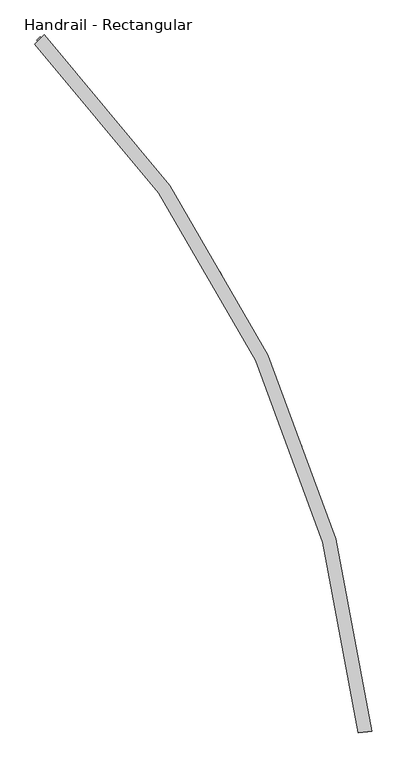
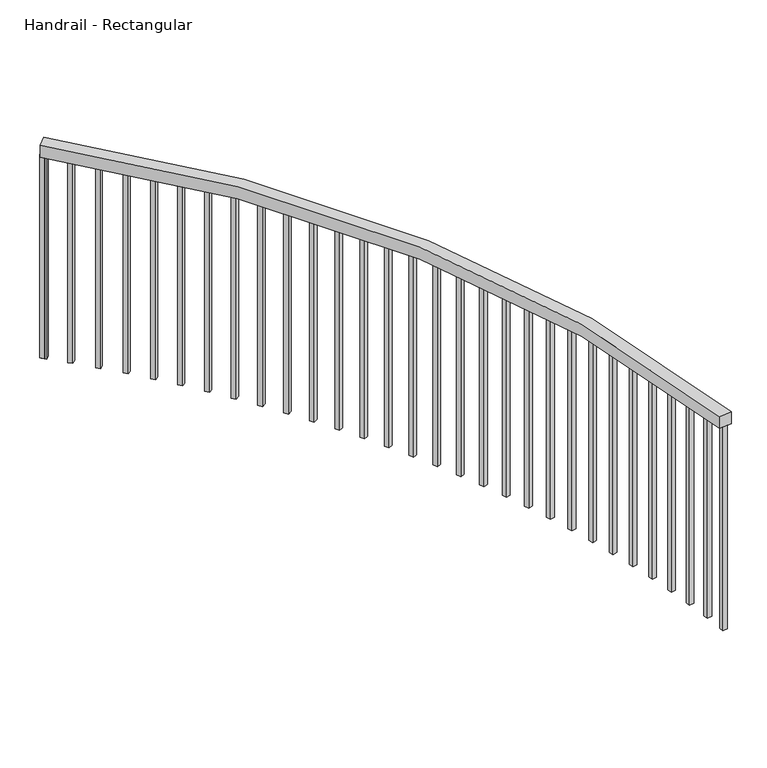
"""IFC4 building model written with IfcOpenShell, lengths in millimetres: railing geometry, Handrail - Rectangular."""

from ifc_helpers import new_model, si_unit, point, frame, frame_2d, origin, place, context, project, spatial, polyline, circle_curve, trimmed, segment, composite_curve, outline, extrude, source, transform, mapped, element, save


def handrail_rectangular_2085f445(model_context):
    return source(origin(), model_context, "Body", "SweptSolid", [
        extrude(outline(composite_curve([segment(trimmed(circle_curve(frame_2d((-12311.0905196, -1776.2264191)), 4368.8), [point((-9201.1741827, 1292.1336995))], [point((-7963.8821039, -1342.4149045))], False, "CARTESIAN"), True, "CONTINUOUS"), segment(polyline([(-7963.8821039, -1342.4149045), (-8014.4310389, -1347.4592244)]), True, "CONTINUOUS"), segment(trimmed(circle_curve(frame_2d((-12311.0905196, -1776.2264191)), 4318.0), [point((-8014.4310389, -1347.4592244))], [point((-9237.3360005, 1256.4550934))], True, "CARTESIAN"), True, "CONTINUOUS"), segment(polyline([(-9237.3360005, 1256.4550934), (-9201.1741827, 1292.1336995)]), True, "CONTINUOUS")], self_intersect=False)), frame((0.0, 0.0, 35458.4), z_axis=(0.0, 0.0, 1.0), x_axis=(1.0, 0.0, 0.0)), (0.0, 0.0, 1.0), 50.8),
        extrude(outline(polyline([(-9203.1994728, 1271.5695095), (-9216.7714949, 1258.201536), (-9230.1394684, 1271.7735582), (-9216.5674463, 1285.1415316), (-9203.1994728, 1271.5695095)])), frame((0.0, 0.0, 34594.8), z_axis=(0.0, 0.0, 1.0), x_axis=(1.0, 0.0, 0.0)), (0.0, 0.0, 1.0), 863.6),
        extrude(outline(polyline([(-9132.7627466, 1198.0431297), (-9146.6437284, 1184.9962586), (-9159.6905995, 1198.8772404), (-9145.8096177, 1211.9241114), (-9132.7627466, 1198.0431297)])), frame((0.0, 0.0, 34594.8), z_axis=(0.0, 0.0, 1.0), x_axis=(1.0, 0.0, 0.0)), (0.0, 0.0, 1.0), 863.6),
        extrude(outline(polyline([(-9064.0650487, 1122.8893724), (-9078.2473952, 1110.1707424), (-9090.9660252, 1124.3530888), (-9076.7836788, 1137.0717188), (-9064.0650487, 1122.8893724)])), frame((0.0, 0.0, 34594.8), z_axis=(0.0, 0.0, 1.0), x_axis=(1.0, 0.0, 0.0)), (0.0, 0.0, 1.0), 863.6),
        extrude(outline(polyline([(-8997.1439672, 1046.1493583), (-9011.6199183, 1033.7659283), (-9024.0033483, 1048.2418795), (-9009.5273972, 1060.6253095), (-8997.1439672, 1046.1493583)])), frame((0.0, 0.0, 34594.8), z_axis=(0.0, 0.0, 1.0), x_axis=(1.0, 0.0, 0.0)), (0.0, 0.0, 1.0), 863.6),
        extrude(outline(polyline([(-8932.036118, 967.8650758), (-8946.7977533, 955.8236214), (-8958.8392077, 970.5852568), (-8944.0775723, 982.6267111), (-8932.036118, 967.8650758)])), frame((0.0, 0.0, 34594.8), z_axis=(0.0, 0.0, 1.0), x_axis=(1.0, 0.0, 0.0)), (0.0, 0.0, 1.0), 863.6),
        extrude(outline(polyline([(-8868.777125, 888.0793582), (-8883.8163677, 876.386468), (-8895.5092578, 891.4257107), (-8880.4700152, 903.1186008), (-8868.777125, 888.0793582)])), frame((0.0, 0.0, 34594.8), z_axis=(0.0, 0.0, 1.0), x_axis=(1.0, 0.0, 0.0)), (0.0, 0.0, 1.0), 863.6),
        extrude(outline(polyline([(-8807.4016006, 806.8358604), (-8822.7102218, 795.4979323), (-8834.04815, 810.8065535), (-8818.7395288, 822.1444817), (-8807.4016006, 806.8358604)])), frame((0.0, 0.0, 34594.8), z_axis=(0.0, 0.0, 1.0), x_axis=(1.0, 0.0, 0.0)), (0.0, 0.0, 1.0), 863.6),
        extrude(outline(polyline([(-8747.9431264, 724.1790351), (-8763.5127501, 713.2022725), (-8774.4895127, 728.7718962), (-8758.9198891, 739.7486588), (-8747.9431264, 724.1790351)])), frame((0.0, 0.0, 34594.8), z_axis=(0.0, 0.0, 1.0), x_axis=(1.0, 0.0, 0.0)), (0.0, 0.0, 1.0), 863.6),
        extrude(outline(polyline([(-8690.4342353, 640.1541081), (-8706.2563425, 629.5445169), (-8716.8659336, 645.3666241), (-8701.0438265, 655.9762152), (-8690.4342353, 640.1541081)])), frame((0.0, 0.0, 34594.8), z_axis=(0.0, 0.0, 1.0), x_axis=(1.0, 0.0, 0.0)), (0.0, 0.0, 1.0), 863.6),
        extrude(outline(polyline([(-8634.9063934, 554.8070537), (-8650.9723269, 544.5704391), (-8661.2089415, 560.6363726), (-8645.143008, 570.8729872), (-8634.9063934, 554.8070537)])), frame((0.0, 0.0, 34594.8), z_axis=(0.0, 0.0, 1.0), x_axis=(1.0, 0.0, 0.0)), (0.0, 0.0, 1.0), 863.6),
        extrude(outline(polyline([(-8581.3899828, 468.1845698), (-8597.6909522, 458.3265327), (-8607.5489893, 474.6275021), (-8591.2480199, 484.4855392), (-8581.3899828, 468.1845698)])), frame((0.0, 0.0, 34594.8), z_axis=(0.0, 0.0, 1.0), x_axis=(1.0, 0.0, 0.0)), (0.0, 0.0, 1.0), 863.6),
        extrude(outline(polyline([(-8529.9142852, 380.334052), (-8546.4413714, 370.8599863), (-8555.9154371, 387.3870725), (-8539.3883509, 396.8611382), (-8529.9142852, 380.334052)])), frame((0.0, 0.0, 34594.8), z_axis=(0.0, 0.0, 1.0), x_axis=(1.0, 0.0, 0.0)), (0.0, 0.0, 1.0), 863.6),
        extrude(outline(polyline([(-8480.5074655, 291.3035679), (-8497.2516257, 282.2186573), (-8506.3365363, 298.9628175), (-8489.5923761, 308.047728), (-8480.5074655, 291.3035679)])), frame((0.0, 0.0, 34594.8), z_axis=(0.0, 0.0, 1.0), x_axis=(1.0, 0.0, 0.0)), (0.0, 0.0, 1.0), 863.6),
        extrude(outline(polyline([(-8433.1965569, 201.1418307), (-8450.1486294, 192.4510461), (-8458.8394141, 209.4031186), (-8441.8873415, 218.0939032), (-8433.1965569, 201.1418307)])), frame((0.0, 0.0, 34594.8), z_axis=(0.0, 0.0, 1.0), x_axis=(1.0, 0.0, 0.0)), (0.0, 0.0, 1.0), 863.6),
        extrude(outline(polyline([(-8388.0074456, 109.8981726), (-8405.1581551, 101.6062691), (-8413.4500586, 118.7569787), (-8396.2993491, 127.0488821), (-8388.0074456, 109.8981726)])), frame((0.0, 0.0, 34594.8), z_axis=(0.0, 0.0, 1.0), x_axis=(1.0, 0.0, 0.0)), (0.0, 0.0, 1.0), 863.6),
        extrude(outline(polyline([(-8344.9648568, 17.6225178), (-8362.3048193, 9.7340324), (-8370.1933047, 27.0739948), (-8352.8533423, 34.9624802), (-8344.9648568, 17.6225178)])), frame((0.0, 0.0, 34594.8), z_axis=(0.0, 0.0, 1.0), x_axis=(1.0, 0.0, 0.0)), (0.0, 0.0, 1.0), 863.6),
        extrude(outline(polyline([(-8304.0923415, -75.634645), (-8321.6120693, -83.1153962), (-8329.0928205, -65.5956684), (-8311.5730927, -58.1149172), (-8304.0923415, -75.634645)])), frame((0.0, 0.0, 34594.8), z_axis=(0.0, 0.0, 1.0), x_axis=(1.0, 0.0, 0.0)), (0.0, 0.0, 1.0), 863.6),
        extrude(outline(polyline([(-8265.4122631, -169.8222899), (-8283.1021703, -176.8912137), (-8290.1710941, -159.2013065), (-8272.4811869, -152.1323827), (-8265.4122631, -169.8222899)])), frame((0.0, 0.0, 34594.8), z_axis=(0.0, 0.0, 1.0), x_axis=(1.0, 0.0, 0.0)), (0.0, 0.0, 1.0), 863.6),
        extrude(outline(polyline([(-8228.9457855, -264.888882), (-8246.796193, -271.5421107), (-8253.4494216, -253.6917031), (-8235.5990141, -247.0384745), (-8228.9457855, -264.888882)])), frame((0.0, 0.0, 34594.8), z_axis=(0.0, 0.0, 1.0), x_axis=(1.0, 0.0, 0.0)), (0.0, 0.0, 1.0), 863.6),
        extrude(outline(polyline([(-8194.7128613, -360.7824054), (-8212.7140023, -367.0162986), (-8218.9478955, -349.0151576), (-8200.9467545, -342.7812645), (-8194.7128613, -360.7824054)])), frame((0.0, 0.0, 34594.8), z_axis=(0.0, 0.0, 1.0), x_axis=(1.0, 0.0, 0.0)), (0.0, 0.0, 1.0), 863.6),
        extrude(outline(polyline([(-8162.7322213, -457.4503918), (-8180.8742464, -463.2615386), (-8186.6853931, -445.1195135), (-8168.5433681, -439.3083667), (-8162.7322213, -457.4503918)])), frame((0.0, 0.0, 34594.8), z_axis=(0.0, 0.0, 1.0), x_axis=(1.0, 0.0, 0.0)), (0.0, 0.0, 1.0), 863.6),
        extrude(outline(polyline([(-8133.0213636, -554.839949), (-8151.2943463, -560.2251699), (-8156.6795672, -541.9521872), (-8138.4065845, -536.5669663), (-8133.0213636, -554.839949)])), frame((0.0, 0.0, 34594.8), z_axis=(0.0, 0.0, 1.0), x_axis=(1.0, 0.0, 0.0)), (0.0, 0.0, 1.0), 863.6),
        extrude(outline(polyline([(-8105.5965447, -652.8977903), (-8123.9904869, -657.8541386), (-8128.9468353, -639.4601964), (-8110.5528931, -634.503848), (-8105.5965447, -652.8977903)])), frame((0.0, 0.0, 34594.8), z_axis=(0.0, 0.0, 1.0), x_axis=(1.0, 0.0, 0.0)), (0.0, 0.0, 1.0), 863.6),
        extrude(outline(polyline([(-8080.47277, -751.570263), (-8098.9776075, -756.095027), (-8103.5023715, -737.5901895), (-8084.997534, -733.0654255), (-8080.47277, -751.570263)])), frame((0.0, 0.0, 34594.8), z_axis=(0.0, 0.0, 1.0), x_axis=(1.0, 0.0, 0.0)), (0.0, 0.0, 1.0), 863.6),
        extrude(outline(polyline([(-8057.6637862, -850.8033783), (-8076.2693939, -854.8940822), (-8080.3600979, -836.2884744), (-8061.7544901, -832.1977705), (-8057.6637862, -850.8033783)])), frame((0.0, 0.0, 34594.8), z_axis=(0.0, 0.0, 1.0), x_axis=(1.0, 0.0, 0.0)), (0.0, 0.0, 1.0), 863.6),
        extrude(outline(polyline([(-8037.182073, -950.5428406), (-8055.878271, -954.1972462), (-8059.5326766, -935.5010482), (-8040.8364786, -931.8466426), (-8037.182073, -950.5428406)])), frame((0.0, 0.0, 34594.8), z_axis=(0.0, 0.0, 1.0), x_axis=(1.0, 0.0, 0.0)), (0.0, 0.0, 1.0), 863.6),
        extrude(outline(polyline([(-8019.0388373, -1050.7340774), (-8037.8153959, -1053.9501851), (-8041.0315036, -1035.1736266), (-8022.2549451, -1031.9575188), (-8019.0388373, -1050.7340774)])), frame((0.0, 0.0, 34594.8), z_axis=(0.0, 0.0, 1.0), x_axis=(1.0, 0.0, 0.0)), (0.0, 0.0, 1.0), 863.6),
        extrude(outline(polyline([(-8003.2440061, -1151.3222687), (-8022.0906515, -1154.0983189), (-8024.8667017, -1135.2516734), (-8006.0200563, -1132.4756232), (-8003.2440061, -1151.3222687)])), frame((0.0, 0.0, 34594.8), z_axis=(0.0, 0.0, 1.0), x_axis=(1.0, 0.0, 0.0)), (0.0, 0.0, 1.0), 863.6),
        extrude(outline(polyline([(-7989.8062215, -1252.2523775), (-8008.7126419, -1254.5868513), (-8011.0471156, -1235.6804309), (-7992.1406952, -1233.3459571), (-7989.8062215, -1252.2523775)])), frame((0.0, 0.0, 34594.8), z_axis=(0.0, 0.0, 1.0), x_axis=(1.0, 0.0, 0.0)), (0.0, 0.0, 1.0), 863.6),
        extrude(outline(polyline([(-9199.1029445, 1267.3865842), (-9212.6929345, 1254.0368774), (-9226.0426413, 1267.6268674), (-9212.4526513, 1280.9765742), (-9199.1029445, 1267.3865842)])), frame((0.0, 0.0, 34594.8), z_axis=(0.0, 0.0, 1.0), x_axis=(1.0, 0.0, 0.0)), (0.0, 0.0, 1.0), 863.6),
        extrude(outline(polyline([(-7979.6703521, -1343.9694195), (-7998.6220089, -1345.9026048), (-8000.5551941, -1326.950948), (-7981.6035373, -1325.0177628), (-7979.6703521, -1343.9694195)])), frame((0.0, 0.0, 34594.8), z_axis=(0.0, 0.0, 1.0), x_axis=(1.0, 0.0, 0.0)), (0.0, 0.0, 1.0), 863.6),
    ])


if __name__ == "__main__":
    model = new_model("IFC4")
    model_context = context("Model", 3, world=origin())
    ifc_project = project(units=[si_unit("LENGTHUNIT", "METRE", prefix="MILLI")], contexts=[model_context])
    site = spatial("IfcSite", under=ifc_project)
    building = spatial("IfcBuilding", under=site)
    placement = place(None, origin())
    handrail_rectangular_shape = handrail_rectangular_2085f445(model_context)
    element("IfcRailing", 1, ObjectType="Handrail - Rectangular", at=placement, inside=building, context=model_context, shape_type="MappedRepresentation", body=[
        mapped(handrail_rectangular_shape, transform((0.0, 0.0, 0.0), x_axis=(1.0, 0.0, 0.0), y_axis=(0.0, 1.0, 0.0), z_axis=(0.0, 0.0, 1.0))),
    ])
    save(model, "model.ifc")
